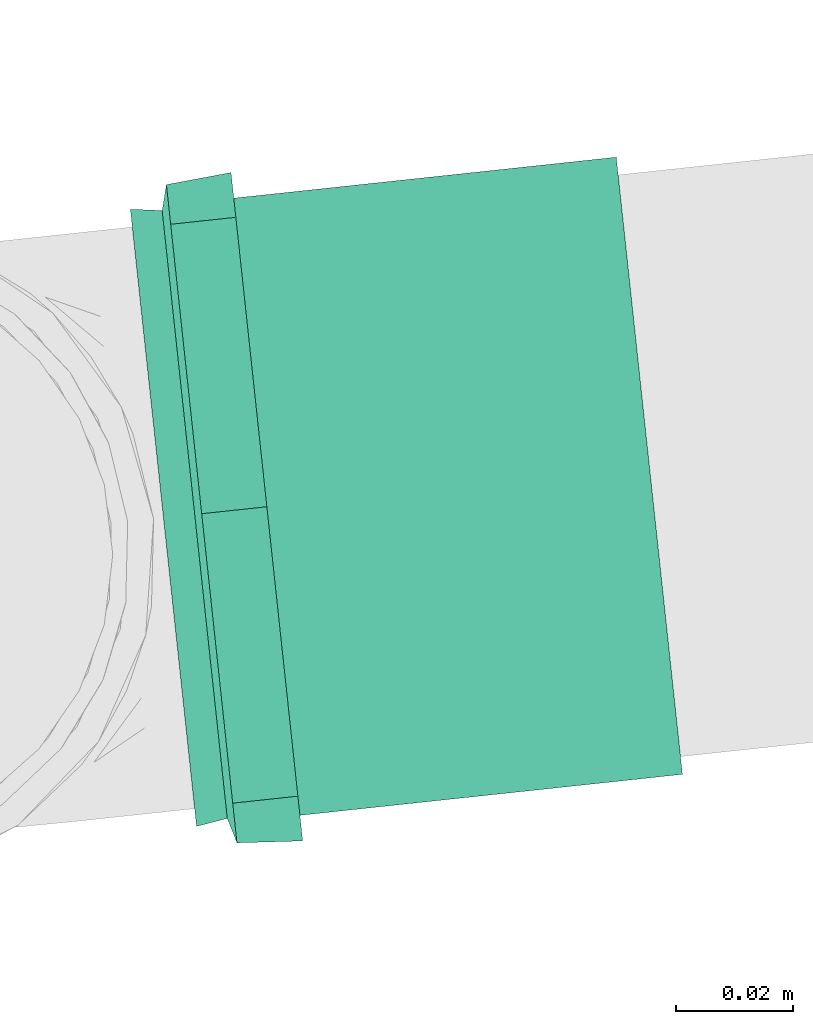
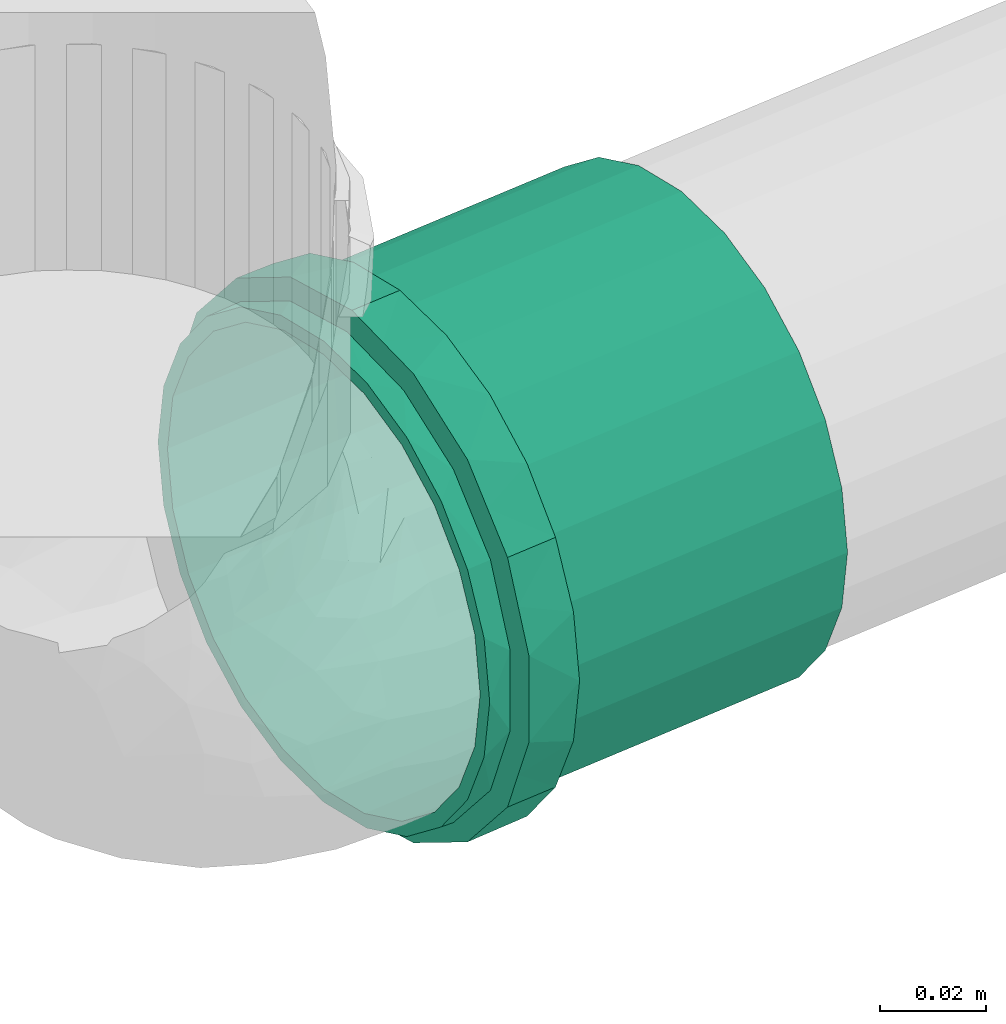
# One storey, part 37 of 97: 1 flow fitting.
"""IFC2X3 building model written with IfcOpenShell, lengths in centimetres."""

from ifc_helpers import new_model, entity, si_unit, converted_unit, derived_unit, direction, frame, origin, place, context, subcontext, project, spatial, faceted_brep, source, transform, mapped, material, type_object, type_shapes, element, save


model = new_model("IFC2X3")

# Units and contexts
model_context = context("Model", 3, precision=0.001, world=origin(), true_north=direction((6.12303176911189e-17, 1.0)))
body_context = subcontext(model_context, "Body", "Model", "MODEL_VIEW")
ifc_project = project(units=[si_unit("LENGTHUNIT", "METRE", prefix="CENTI"), si_unit("AREAUNIT", "SQUARE_METRE"), si_unit("VOLUMEUNIT", "CUBIC_METRE"), converted_unit("PLANEANGLEUNIT", "DEGREE", entity("IfcRatioMeasure", 0.0174532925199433), si_unit("PLANEANGLEUNIT", "RADIAN"), dimensions=[0, 0, 0, 0, 0, 0, 0]), si_unit("MASSUNIT", "GRAM", prefix="KILO"), derived_unit("MASSDENSITYUNIT", [(si_unit("MASSUNIT", "GRAM", prefix="KILO"), 1), (si_unit("LENGTHUNIT", "METRE"), -3)]), derived_unit("MOMENTOFINERTIAUNIT", [(si_unit("LENGTHUNIT", "METRE"), 4)]), si_unit("TIMEUNIT", "SECOND"), si_unit("FREQUENCYUNIT", "HERTZ"), si_unit("THERMODYNAMICTEMPERATUREUNIT", "DEGREE_CELSIUS"), derived_unit("THERMALTRANSMITTANCEUNIT", [(si_unit("MASSUNIT", "GRAM", prefix="KILO"), 1), (si_unit("THERMODYNAMICTEMPERATUREUNIT", "KELVIN"), -1), (si_unit("TIMEUNIT", "SECOND"), -3)]), derived_unit("VOLUMETRICFLOWRATEUNIT", [(si_unit("LENGTHUNIT", "METRE"), 3), (si_unit("TIMEUNIT", "SECOND"), -1)]), si_unit("ELECTRICCURRENTUNIT", "AMPERE"), si_unit("ELECTRICVOLTAGEUNIT", "VOLT"), si_unit("POWERUNIT", "WATT"), si_unit("FORCEUNIT", "NEWTON", prefix="KILO"), si_unit("ILLUMINANCEUNIT", "LUX"), si_unit("LUMINOUSFLUXUNIT", "LUMEN"), si_unit("LUMINOUSINTENSITYUNIT", "CANDELA"), derived_unit("USERDEFINED", [(si_unit("MASSUNIT", "GRAM", prefix="KILO"), -1), (si_unit("LENGTHUNIT", "METRE"), -2), (si_unit("TIMEUNIT", "SECOND"), 3), (si_unit("LUMINOUSFLUXUNIT", "LUMEN"), 1)]), derived_unit("LINEARVELOCITYUNIT", [(si_unit("LENGTHUNIT", "METRE"), 1), (si_unit("TIMEUNIT", "SECOND"), -1)]), si_unit("PRESSUREUNIT", "PASCAL"), derived_unit("USERDEFINED", [(si_unit("LENGTHUNIT", "METRE"), -2), (si_unit("MASSUNIT", "GRAM", prefix="KILO"), 1), (si_unit("TIMEUNIT", "SECOND"), -2)]), derived_unit("LINEARFORCEUNIT", [(si_unit("MASSUNIT", "GRAM", prefix="KILO"), 1), (si_unit("LENGTHUNIT", "METRE"), 1), (si_unit("TIMEUNIT", "SECOND"), -2), (si_unit("LENGTHUNIT", "METRE"), -1)]), derived_unit("PLANARFORCEUNIT", [(si_unit("MASSUNIT", "GRAM", prefix="KILO"), 1), (si_unit("LENGTHUNIT", "METRE"), 1), (si_unit("TIMEUNIT", "SECOND"), -2), (si_unit("LENGTHUNIT", "METRE"), -2)])], contexts=[model_context])

# Site, building, storey
site_placement = place(None, origin())
site = spatial("IfcSite", under=ifc_project, at=site_placement, Name="Default", CompositionType="ELEMENT")
building_placement = place(site_placement, origin())
building = spatial("IfcBuilding", under=site, at=building_placement, Name="HIDROSSANITÁRIO", CompositionType="ELEMENT")
storey_placement = place(building_placement, frame((0.0, 0.0, -260.0)))
storey = spatial("IfcBuildingStorey", under=building, at=storey_placement, Name="TÉRREO-HID", CompositionType="ELEMENT", Elevation=-260.0)

# Flow fitting
ifc_material = material(Name="PVC Branco")
pipe_fitting_type = type_object("IfcPipeFittingType", Name="Luva Simples para Conexão - Serie Normal - Esgoto - MEP - Tigre:Standard", PredefinedType="NOTDEFINED", material=ifc_material)
shared_shape = source(origin(), body_context, "Body", "Brep", [
    faceted_brep([(1.77700000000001, 2.8725, -4.9753159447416), (1.77700000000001, 4.06232845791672, -4.06232845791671), (1.77700000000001, 2.65249999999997, -4.59426476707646), (1.77700000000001, 1.37303503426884, -5.12423650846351), (1.77700000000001, 1.48691541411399, -5.5492438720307), (1.77700000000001, 3.75120147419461, -3.75120147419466), (1.77700000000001, 4.9753159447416, -2.8725), (1.77700000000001, 4.59426476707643, -2.65250000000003), (1.77700000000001, 5.1242365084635, -1.37303503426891), (1.77700000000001, 5.5492438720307, -1.48691541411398), (1.77700000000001, 5.305, 0.0), (1.77700000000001, 5.745, 0.0), (1.77700000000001, 5.1242365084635, 1.3730350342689), (1.77700000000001, 5.54924387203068, 1.48691541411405), (1.77700000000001, 4.59426476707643, 2.65250000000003), (1.77700000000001, 4.97531594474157, 2.87250000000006), (1.77700000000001, 3.75120147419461, 3.75120147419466), (1.77700000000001, 4.06232845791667, 4.06232845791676), (1.77700000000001, 2.65249999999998, 4.59426476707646), (1.77700000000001, 2.87249999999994, 4.97531594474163), (1.77700000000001, 1.37303503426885, 5.12423650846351), (1.77700000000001, 1.48691541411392, 5.54924387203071), (1.77700000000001, 0.0, 5.305), (1.77700000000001, 0.0, 5.745), (1.77700000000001, -1.37303503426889, 5.1242365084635), (1.77700000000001, -1.48691541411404, 5.54924387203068), (1.77700000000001, -2.65250000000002, 4.59426476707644), (1.77700000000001, -2.87250000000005, 4.97531594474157), (1.77700000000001, -3.75120147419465, 3.75120147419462), (1.77700000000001, -4.06232845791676, 4.06232845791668), (1.77700000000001, -4.59426476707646, 2.65249999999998), (1.77700000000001, -4.97531594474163, 2.87249999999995), (1.77700000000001, -5.54924387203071, 1.48691541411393), (1.77700000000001, -5.12423650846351, 1.37303503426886), (1.77700000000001, -5.745, 0.0), (1.77700000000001, -5.305, 0.0), (1.77700000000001, -5.54924387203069, -1.486915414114), (1.77700000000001, -5.12423650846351, -1.37303503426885), (1.77700000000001, -4.97531594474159, -2.87250000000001), (1.77700000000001, -4.59426476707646, -2.65249999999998), (1.77700000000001, -4.06232845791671, -4.06232845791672), (1.77700000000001, -3.75120147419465, -3.75120147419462), (1.77700000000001, -2.87249999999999, -4.97531594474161), (1.77700000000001, -2.65250000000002, -4.59426476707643), (1.77700000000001, -1.48691541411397, -5.5492438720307), (1.77700000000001, -1.3730350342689, -5.1242365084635), (1.77700000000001, 0.0, -5.745), (1.77700000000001, 0.0, -5.305), (0.657000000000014, -1.93463887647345, 5.31665771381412), (0.657000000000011, -4.4007619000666, 3.69300957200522), (0.657000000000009, -4.89962626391, 2.82901737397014), (0.657000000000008, -5.39849062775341, 1.96502517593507), (0.657000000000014, -2.87216972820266, 4.97550661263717), (0.657000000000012, -3.63646581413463, 4.3342580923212), (0.657000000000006, -5.5717453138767, 0.982512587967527), (0.657000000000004, -5.745, 0.0), (0.657000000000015, -0.997108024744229, 5.65780881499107), (0.657000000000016, 0.998234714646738, 5.65761013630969), (0.657000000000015, 0.0005633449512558, 5.65770947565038), (0.657000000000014, 3.63732887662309, 4.33353383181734), (0.657000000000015, 1.93569761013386, 5.31627233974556), (0.657000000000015, 2.87316050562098, 4.97493454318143), (0.65700000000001, 5.39888184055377, 1.96395006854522), (0.657000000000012, 4.90018954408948, 2.82804159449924), (0.657000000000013, 4.40149724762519, 3.69213312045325), (0.657000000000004, 5.745, 0.0), (0.656999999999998, 4.40149724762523, -3.6921331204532), (0.657, 4.90018954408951, -2.82804159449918), (0.657000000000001, 5.39888184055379, -1.96395006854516), (0.656999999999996, 2.87316050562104, -4.9749345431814), (0.656999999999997, 3.63732887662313, -4.3335338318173), (0.656999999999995, 1.93569761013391, -5.31627233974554), (0.656999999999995, 0.998234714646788, -5.65761013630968), (0.656999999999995, -0.997108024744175, -5.65780881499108), (0.656999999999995, 0.000563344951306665, -5.65770947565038), (0.656999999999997, -3.6364658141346, -4.33425809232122), (0.656999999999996, -2.87216972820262, -4.9755066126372), (0.656999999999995, -1.9346388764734, -5.31665771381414), (0.657000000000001, -5.39849062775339, -1.96502517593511), (0.657, -4.89962626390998, -2.82901737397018), (0.656999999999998, -4.40076190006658, -3.69300957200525), (0.657000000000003, -5.5717453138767, -0.982512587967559), (8.35200000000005, 2.6525, -4.59426476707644), (8.35200000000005, 3.75120147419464, -3.75120147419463), (8.35200000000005, 2.49999999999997, -4.33012701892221), (8.35200000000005, 1.29409522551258, -4.82962913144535), (8.35200000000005, 1.37303503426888, -5.1242365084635), (8.35200000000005, 3.53553390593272, -3.53553390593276), (8.35200000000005, 4.59426476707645, -2.6525), (8.35200000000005, 4.33012701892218, -2.50000000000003), (8.35200000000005, 4.82962913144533, -1.29409522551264), (8.35200000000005, 5.12423650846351, -1.37303503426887), (8.35200000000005, 5.0, 0.0), (8.35200000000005, 5.305, 0.0), (8.35200000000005, 4.82962913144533, 1.29409522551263), (8.35200000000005, 5.12423650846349, 1.37303503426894), (8.35200000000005, 4.33012701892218, 2.50000000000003), (8.35200000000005, 4.59426476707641, 2.65250000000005), (8.35200000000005, 3.53553390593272, 3.53553390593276), (8.35200000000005, 3.75120147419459, 3.75120147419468), (8.35200000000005, 2.49999999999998, 4.33012701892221), (8.35200000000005, 2.65249999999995, 4.59426476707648), (8.35200000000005, 1.29409522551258, 4.82962913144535), (8.35200000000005, 1.37303503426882, 5.12423650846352), (8.35200000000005, 0.0, 5.0), (8.35200000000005, 0.0, 5.305), (8.35200000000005, -1.29409522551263, 4.82962913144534), (8.35200000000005, -1.37303503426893, 5.12423650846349), (8.35200000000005, -2.50000000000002, 4.33012701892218), (8.35200000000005, -2.65250000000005, 4.59426476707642), (8.35200000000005, -3.53553390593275, 3.53553390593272), (8.35200000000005, -3.75120147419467, 3.7512014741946), (8.35200000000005, -4.3301270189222, 2.49999999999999), (8.35200000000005, -4.59426476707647, 2.65249999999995), (8.35200000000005, -5.12423650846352, 1.37303503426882), (8.35200000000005, -4.82962913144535, 1.29409522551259), (8.35200000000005, -5.305, 0.0), (8.35200000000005, -5.0, 0.0), (8.35200000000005, -5.1242365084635, -1.37303503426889), (8.35200000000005, -4.82962913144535, -1.29409522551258), (8.35200000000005, -4.59426476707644, -2.65250000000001), (8.35200000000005, -4.3301270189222, -2.49999999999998), (8.35200000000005, -3.75120147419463, -3.75120147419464), (8.35200000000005, -3.53553390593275, -3.53553390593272), (8.35200000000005, -2.65249999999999, -4.59426476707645), (8.35200000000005, -2.50000000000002, -4.33012701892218), (8.35200000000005, -1.37303503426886, -5.12423650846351), (8.35200000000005, -1.29409522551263, -4.82962913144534), (8.35200000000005, 0.0, -5.305), (8.35200000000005, 0.0, -5.0), (0.0, 2.49999999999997, -4.33012701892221), (0.0, 3.75120147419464, -3.75120147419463), (0.0, 2.6525, -4.59426476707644), (0.0, 1.29409522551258, -4.82962913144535), (0.0, 3.53553390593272, -3.53553390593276), (0.0, 4.59426476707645, -2.6525), (0.0, 4.33012701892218, -2.50000000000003), (0.0, 4.82962913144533, -1.29409522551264), (0.0, 5.12423650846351, -1.37303503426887), (0.0, 5.0, 0.0), (0.0, 5.305, 0.0), (0.0, 4.82962913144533, 1.29409522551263), (0.0, 5.12423650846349, 1.37303503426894), (0.0, 4.33012701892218, 2.50000000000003), (0.0, 4.59426476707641, 2.65250000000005), (0.0, 3.53553390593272, 3.53553390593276), (0.0, 3.75120147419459, 3.75120147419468), (0.0, 2.49999999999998, 4.33012701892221), (0.0, 2.65249999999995, 4.59426476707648), (0.0, 1.29409522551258, 4.82962913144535), (0.0, 1.37303503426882, 5.12423650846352), (0.0, 0.0, 5.0), (0.0, 0.0, 5.305), (0.0, -1.29409522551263, 4.82962913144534), (0.0, -1.37303503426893, 5.12423650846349), (0.0, -2.50000000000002, 4.33012701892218), (0.0, -2.65250000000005, 4.59426476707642), (0.0, -3.53553390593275, 3.53553390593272), (0.0, -3.75120147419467, 3.7512014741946), (0.0, -4.3301270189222, 2.49999999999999), (0.0, -4.59426476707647, 2.65249999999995), (0.0, -5.12423650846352, 1.37303503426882), (0.0, -4.82962913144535, 1.29409522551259), (0.0, -5.305, 0.0), (0.0, -5.0, 0.0), (0.0, -5.1242365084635, -1.37303503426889), (0.0, -4.82962913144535, -1.29409522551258), (0.0, -4.59426476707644, -2.65250000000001), (0.0, -4.3301270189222, -2.49999999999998), (0.0, -3.75120147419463, -3.75120147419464), (0.0, -3.53553390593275, -3.53553390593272), (0.0, -2.65249999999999, -4.59426476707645), (0.0, -2.50000000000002, -4.33012701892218), (0.0, -1.37303503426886, -5.12423650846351), (0.0, -1.29409522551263, -4.82962913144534), (0.0, 0.0, -5.305), (0.0, 0.0, -5.0), (0.0, 1.37303503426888, -5.1242365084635), (0.537000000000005, -5.305, 0.0), (0.537000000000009, -4.98507989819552, 1.81438788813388), (0.537000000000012, -4.06390540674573, 3.4099410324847), (0.537000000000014, -2.65258010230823, 4.59421851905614), (0.537000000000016, -0.921325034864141, 5.22438371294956), (0.537000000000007, 5.1449924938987, 0.907324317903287), (0.537000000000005, 5.305, 0.0), (0.537000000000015, 2.65233979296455, 4.59435725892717), (0.537000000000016, 0.921051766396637, 5.22443189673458), (0.537000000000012, 4.06372704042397, 3.41015359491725), (0.537000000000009, 4.9849849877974, 1.81464863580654), (0.537000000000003, 5.14499249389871, -0.907324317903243), (0.537000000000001, 4.98498498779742, -1.81464863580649), (0.536999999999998, 4.063727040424, -3.41015359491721), (0.536999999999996, 2.6523397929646, -4.59435725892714), (0.536999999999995, 0.921051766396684, -5.22443189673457), (0.536999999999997, -2.6525801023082, -4.59421851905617), (0.536999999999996, -0.921325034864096, -5.22438371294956), (0.536999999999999, -4.0639054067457, -3.40994103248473), (0.537000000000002, -4.98507989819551, -1.81438788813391), (5.0, -5.0, 0.0), (5.0, 5.0, 0.0)], [[[0, 1, 2]], [[0, 2, 3]], [[3, 4, 0]], [[2, 1, 5]], [[6, 5, 1]], [[5, 6, 7]], [[7, 6, 8]], [[9, 8, 6]], [[9, 10, 8]], [[10, 9, 11]], [[12, 10, 11]], [[11, 13, 12]], [[12, 13, 14]], [[15, 14, 13]], [[14, 15, 16]], [[16, 15, 17]], [[18, 16, 17]], [[17, 19, 18]], [[18, 19, 20]], [[21, 20, 19]], [[20, 21, 22]], [[22, 21, 23]], [[22, 23, 24]], [[24, 23, 25]], [[24, 25, 26]], [[27, 26, 25]], [[27, 28, 26]], [[28, 27, 29]], [[29, 30, 28]], [[31, 30, 29]], [[30, 31, 32]], [[32, 33, 30]], [[34, 33, 32]], [[34, 35, 33]], [[36, 35, 34]], [[36, 37, 35]], [[37, 36, 38]], [[38, 39, 37]], [[39, 38, 40]], [[39, 40, 41]], [[40, 42, 41]], [[41, 42, 43]], [[43, 42, 44]], [[44, 45, 43]], [[46, 45, 44]], [[4, 47, 46]], [[46, 47, 45]], [[4, 3, 47]], [[48, 27, 25]], [[31, 29, 49]], [[31, 49, 50, 51]], [[52, 53, 27]], [[32, 51, 54]], [[54, 55, 34]], [[54, 34, 32]], [[25, 56, 48]], [[49, 29, 53]], [[23, 57, 58, 56]], [[59, 19, 17]], [[27, 53, 29]], [[48, 52, 27]], [[31, 51, 32]], [[57, 23, 21]], [[60, 19, 61]], [[15, 62, 63, 64]], [[19, 60, 21]], [[15, 13, 62]], [[17, 64, 59]], [[57, 21, 60]], [[23, 56, 25]], [[15, 64, 17]], [[13, 65, 62]], [[13, 11, 65]], [[59, 61, 19]], [[65, 11, 9]], [[6, 1, 66]], [[6, 66, 67, 68]], [[69, 70, 0]], [[68, 65, 9]], [[71, 69, 0]], [[71, 0, 4]], [[4, 72, 71]], [[66, 1, 70]], [[46, 73, 74, 72]], [[75, 76, 42]], [[0, 70, 1]], [[75, 42, 40]], [[6, 68, 9]], [[73, 46, 44]], [[77, 42, 76]], [[38, 78, 79, 80]], [[42, 77, 44]], [[38, 36, 78]], [[40, 80, 75]], [[73, 44, 77]], [[46, 72, 4]], [[38, 80, 40]], [[81, 78, 36]], [[55, 81, 34]], [[34, 81, 36]], [[82, 83, 84]], [[82, 84, 85]], [[85, 86, 82]], [[84, 83, 87]], [[88, 87, 83]], [[87, 88, 89]], [[89, 88, 90]], [[91, 90, 88]], [[91, 92, 90]], [[92, 91, 93]], [[94, 92, 93]], [[93, 95, 94]], [[94, 95, 96]], [[97, 96, 95]], [[96, 97, 98]], [[98, 97, 99]], [[100, 98, 99]], [[99, 101, 100]], [[100, 101, 102]], [[103, 102, 101]], [[102, 103, 104]], [[104, 103, 105]], [[104, 105, 106]], [[106, 105, 107]], [[106, 107, 108]], [[109, 108, 107]], [[110, 108, 109]], [[110, 109, 111]], [[111, 112, 110]], [[113, 112, 111]], [[112, 113, 114]], [[114, 115, 112]], [[116, 115, 114]], [[116, 117, 115]], [[118, 117, 116]], [[118, 119, 117]], [[119, 118, 120]], [[120, 121, 119]], [[121, 120, 122]], [[121, 122, 123]], [[122, 124, 123]], [[125, 123, 124]], [[125, 124, 126]], [[126, 127, 125]], [[128, 127, 126]], [[86, 129, 128]], [[128, 129, 127]], [[86, 85, 129]], [[130, 131, 132]], [[133, 130, 132]], [[134, 131, 130]], [[131, 134, 135]], [[136, 135, 134]], [[137, 135, 136]], [[135, 137, 138]], [[137, 139, 138]], [[140, 138, 139]], [[140, 139, 141]], [[141, 142, 140]], [[143, 142, 141]], [[142, 143, 144]], [[145, 144, 143]], [[146, 144, 145]], [[146, 145, 147]], [[147, 148, 146]], [[149, 148, 147]], [[148, 149, 150]], [[151, 150, 149]], [[152, 150, 151]], [[153, 152, 151]], [[154, 152, 153]], [[155, 154, 153]], [[154, 155, 156]], [[156, 155, 157]], [[158, 156, 157]], [[157, 159, 158]], [[158, 159, 160]], [[161, 160, 159]], [[159, 162, 161]], [[161, 162, 163]], [[162, 164, 163]], [[163, 164, 165]], [[164, 166, 165]], [[167, 165, 166]], [[166, 168, 167]], [[169, 167, 168]], [[170, 169, 168]], [[170, 171, 169]], [[171, 170, 172]], [[173, 171, 172]], [[172, 174, 173]], [[173, 174, 175]], [[174, 176, 175]], [[176, 133, 177]], [[175, 176, 177]], [[132, 177, 133]], [[161, 178, 179]], [[158, 180, 181]], [[179, 180, 160]], [[181, 182, 154]], [[179, 160, 161]], [[161, 163, 178]], [[35, 116, 114, 33]], [[183, 184, 140]], [[181, 156, 158]], [[158, 160, 180]], [[181, 154, 156]], [[182, 152, 154]], [[183, 140, 142]], [[185, 150, 186]], [[187, 146, 185]], [[142, 188, 183]], [[187, 188, 144]], [[185, 148, 150]], [[150, 152, 186]], [[187, 144, 146]], [[146, 148, 185]], [[188, 142, 144]], [[186, 152, 182]], [[189, 190, 138]], [[131, 191, 192]], [[190, 191, 135]], [[192, 193, 177]], [[190, 135, 138]], [[184, 189, 140]], [[192, 132, 131]], [[131, 135, 191]], [[192, 177, 132]], [[193, 175, 177]], [[140, 189, 138]], [[194, 173, 195]], [[196, 169, 194]], [[165, 197, 178]], [[196, 197, 167]], [[165, 178, 163]], [[35, 37, 118, 116]], [[194, 171, 173]], [[173, 175, 195]], [[196, 167, 169]], [[169, 171, 194]], [[197, 165, 167]], [[195, 175, 193]], [[115, 117, 198, 164, 162]], [[155, 108, 110, 157]], [[110, 112, 159, 157]], [[112, 115, 162, 159]], [[106, 108, 155, 153]], [[153, 151, 104, 106]], [[102, 104, 151, 149]], [[102, 149, 147, 100]], [[141, 94, 96, 143]], [[96, 98, 145, 143]], [[98, 100, 147, 145]], [[92, 94, 141, 139, 199]], [[199, 139, 137, 90, 92]], [[87, 89, 136, 134]], [[134, 130, 84, 87]], [[89, 90, 137, 136]], [[85, 84, 130, 133]], [[133, 176, 129, 85]], [[127, 129, 176, 174]], [[127, 174, 172, 125]], [[166, 119, 121, 168]], [[121, 123, 170, 168]], [[123, 125, 172, 170]], [[117, 119, 166, 164, 198]], [[81, 178, 197]], [[190, 68, 67]], [[194, 75, 196]], [[193, 72, 74]], [[195, 77, 194]], [[79, 197, 196]], [[81, 55, 178]], [[192, 69, 71]], [[79, 78, 197]], [[194, 77, 76]], [[191, 66, 70]], [[80, 196, 75]], [[68, 190, 189]], [[74, 195, 193]], [[192, 71, 193]], [[190, 67, 191]], [[70, 192, 191]], [[65, 189, 184]], [[195, 73, 77]], [[193, 71, 72]], [[197, 78, 81]], [[191, 67, 66]], [[189, 65, 68]], [[196, 80, 79]], [[70, 69, 192]], [[194, 76, 75]], [[73, 195, 74]], [[65, 183, 62]], [[48, 56, 182]], [[58, 182, 56]], [[54, 51, 179]], [[59, 185, 61]], [[60, 186, 57]], [[53, 52, 181]], [[63, 187, 64]], [[58, 57, 186]], [[187, 63, 188]], [[186, 60, 185]], [[50, 49, 180]], [[185, 59, 187]], [[59, 64, 187]], [[182, 58, 186]], [[50, 179, 51]], [[54, 178, 55]], [[53, 180, 49]], [[63, 62, 188]], [[181, 48, 182]], [[183, 65, 184]], [[179, 50, 180]], [[178, 54, 179]], [[183, 188, 62]], [[180, 53, 181]], [[60, 61, 185]], [[48, 181, 52]], [[30, 33, 114, 113]], [[26, 28, 111, 109]], [[113, 111, 28, 30]], [[107, 24, 26, 109]], [[107, 105, 22, 24]], [[18, 20, 103, 101]], [[99, 16, 18, 101]], [[12, 14, 97, 95]], [[99, 97, 14, 16]], [[10, 12, 95, 93]], [[103, 20, 22, 105]], [[91, 8, 10, 93]], [[88, 7, 8, 91]], [[82, 86, 3, 2]], [[83, 5, 7, 88]], [[2, 5, 83, 82]], [[86, 128, 47, 3]], [[43, 45, 126, 124]], [[122, 41, 43, 124]], [[37, 39, 120, 118]], [[122, 120, 39, 41]], [[126, 45, 47, 128]]]),
])
type_shapes(pipe_fitting_type, [shared_shape])
flow_fitting_placement = place(storey_placement, frame((2911.96906233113, -100.051120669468, 620.0), z_axis=(-0.106567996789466, 0.994305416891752, 0.0), x_axis=(0.994305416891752, 0.106567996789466, 0.0)))
element("IfcFlowFitting", 1, at=flow_fitting_placement, inside=storey, type_object=pipe_fitting_type, material=ifc_material, Name="Luva Simples para Conexão - Serie Normal - Esgoto - MEP - Tigre:Standard", ObjectType="Luva Simples para Conexão - Serie Normal - Esgoto - MEP - Tigre:Standard", context=body_context, shape_type="MappedRepresentation", body=[
    mapped(shared_shape, transform((0.0, 0.0, 0.0), scale=1.0)),
])

save(model, "model.ifc")
